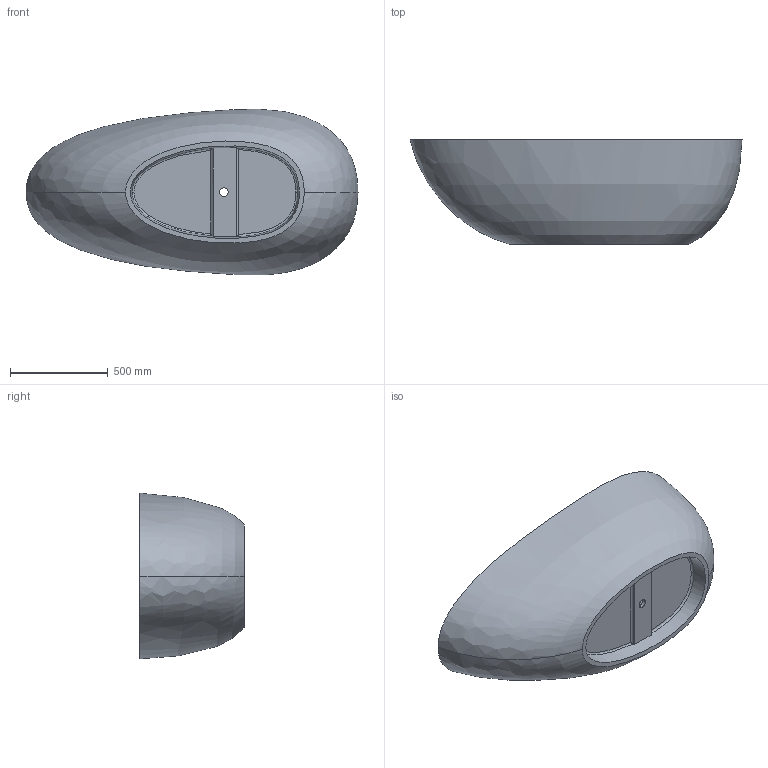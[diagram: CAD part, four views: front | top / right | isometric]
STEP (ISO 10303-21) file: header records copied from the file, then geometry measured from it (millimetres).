
FILE_DESCRIPTION (( 'STEP AP203' ), '1' );
FILE_NAME ('TC-S06.STEP', '2017-05-07T12:02:50', ( '旮僅薊襠http://www.deepbbs.org' ), ( 'http://www.deepbbs.org' ), 'SwSTEP 2.0', 'SolidWorks 2016', '' );
FILE_SCHEMA (( 'CONFIG_CONTROL_DESIGN' ));
Length unit declared in the file: millimetre
Products named in the file (1): TC-S06
Bounding box: 1700 x 535 x 848.1 mm (x, y, z)
Volume: 89183573.1 mm3; surface area: 5003122.3 mm2
Topology: 1 solids, 1 shells, 31 faces, 77 edges, 50 vertices
Faces by surface type: bspline 15, plane 8, cylinder 6, cone 2
Entity records: 7022 total; most frequent: CARTESIAN_POINT 6333, ORIENTED_EDGE 154, DIRECTION 78, EDGE_CURVE 77, VERTEX_POINT 50, B_SPLINE_CURVE_WITH_KNOTS 47, EDGE_LOOP 35, AXIS2_PLACEMENT_3D 31
